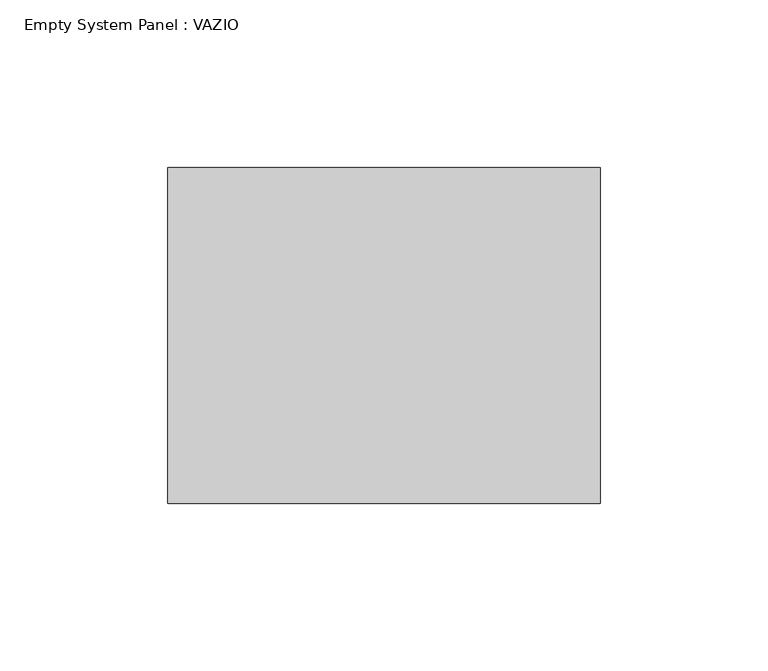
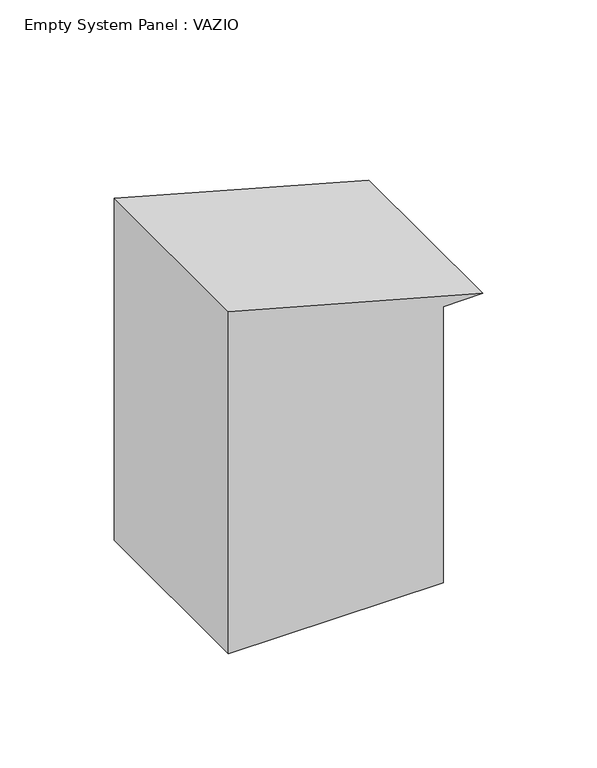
"""IFC4 building model written with IfcOpenShell, lengths in millimetres: plate geometry, Empty System Panel : VAZIO."""

from ifc_helpers import new_model, si_unit, point, frame, frame_2d, origin, place, context, project, spatial, polyline, circle_curve, trimmed, segment, composite_curve, outline, extrude, source, transform, mapped, element, save


def empty_system_panel_vazio_8d1e7e2e(model_context):
    return source(origin(), model_context, "Body", "SweptSolid", [
        extrude(outline(composite_curve([segment(polyline([(0.0, -64.3902439), (0.0, 44.3902439), (147.6826185, 44.3902439), (147.6826185, 64.3902439)]), True, "CONTINUOUS"), segment(trimmed(circle_curve(frame_2d((-2933.8559746, -848.2926829)), 3213.8559746), [point((147.6826185, 64.3902439))], [point((182.931986, -64.3902439))], False, "CARTESIAN"), True, "CONTINUOUS"), segment(polyline([(182.931986, -64.3902439), (0.0, -64.3902439)]), True, "CONTINUOUS")], self_intersect=False)), frame((0.0, -50.0, 0.0), z_axis=(0.0, 1.0, 0.0), x_axis=(0.0, 0.0, 1.0)), (0.0, 0.0, 1.0), 100.0),
    ])


if __name__ == "__main__":
    model = new_model("IFC4")
    model_context = context("Model", 3, world=origin())
    ifc_project = project(units=[si_unit("LENGTHUNIT", "METRE", prefix="MILLI")], contexts=[model_context])
    site = spatial("IfcSite", under=ifc_project)
    building = spatial("IfcBuilding", under=site)
    placement = place(None, origin())
    empty_system_panel_vazio_shape = empty_system_panel_vazio_8d1e7e2e(model_context)
    element("IfcPlate", 1, ObjectType="Empty System Panel : VAZIO", at=placement, inside=building, context=model_context, shape_type="MappedRepresentation", body=[
        mapped(empty_system_panel_vazio_shape, transform((0.0, 0.0, 0.0), x_axis=(1.0, 0.0, 0.0), y_axis=(0.0, 1.0, 0.0), z_axis=(0.0, 0.0, 1.0))),
    ])
    save(model, "model.ifc")
